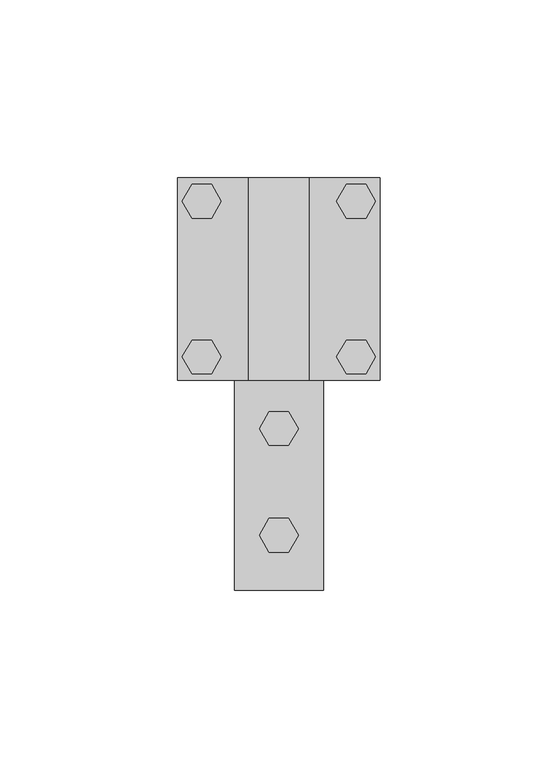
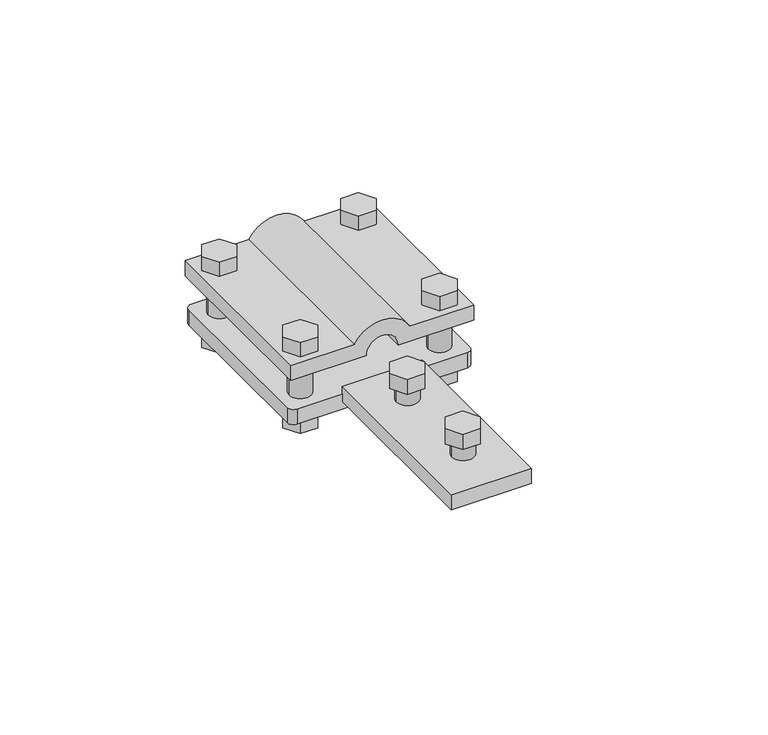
"""IFC4 building model written with IfcOpenShell, lengths in millimetres: proxy geometry, КНС_КонтрольныйСоединитель_DKC : NG3203_Горячеоцинкованная сталь."""

from ifc_helpers import new_model, si_unit, frame, origin, place, context, project, spatial, polyline, circle_curve, outline, extrude, source, transform, mapped, element, save
from ifc_brep_helpers import plane_surface, cylinder_surface, revolved_surface, advanced_brep


def security_devices_8d422149(model_context):
    return source(origin(), model_context, "Body", "SolidModel", [
        advanced_brep(
        [(26.5, 28.5, -5.0), (-26.5, 28.5, -5.0), (-28.5, 26.5, -5.0), (-28.5, -26.5, -5.0), (-26.5, -28.5, -5.0), (26.5, -28.5, -5.0), (28.5, -26.5, -5.0), (28.5, 26.5, -5.0), (-18.2911448, 21.78125, -5.0), (-25.1330666, 21.78125, -5.0), (25.1330666, 21.78125, -5.0), (18.2911448, 21.78125, -5.0), (-18.2911448, -21.78125, -5.0), (-25.1330666, -21.78125, -5.0), (25.1330666, -21.78125, -5.0), (18.2911448, -21.78125, -5.0), (26.5, 28.5, -10.0), (28.5, 26.5, -10.0), (28.5, -26.5, -10.0), (26.5, -28.5, -10.0), (-26.5, -28.5, -10.0), (-28.5, -26.5, -10.0), (-28.5, 26.5, -10.0), (-26.5, 28.5, -10.0), (8.660254, -28.5, 10.0), (28.5, -28.5, 10.0), (28.5, 28.5, 10.0), (8.660254, 28.5, 10.0), (-28.5, -28.5, 10.0), (-8.660254, -28.5, 10.0), (-8.660254, 28.5, 10.0), (-28.5, 28.5, 10.0), (-18.2911448, 21.78125, 5.0), (-25.1330666, 21.78125, 5.0), (25.1330666, 21.78125, 5.0), (18.2911448, 21.78125, 5.0), (-18.2911448, -21.78125, 5.0), (-25.1330666, -21.78125, 5.0), (25.1330666, -21.78125, 5.0), (18.2911448, -21.78125, 5.0), (-28.5, -28.5, 5.0), (-5.0, -28.5, 5.0), (5.0, -28.5, 5.0), (28.5, -28.5, 5.0), (28.5, 28.5, 5.0), (5.0, 28.5, 5.0), (-5.0, 28.5, 5.0), (-28.5, 28.5, 5.0)],
        [
            (0, 1),
            (1, 2, circle_curve(frame((-26.5, 26.5, -5.0), z_axis=(0.0, 0.0, 1.0), x_axis=(1.0, 0.0, 0.0)), 2.0)),
            (2, 3),
            (3, 4, circle_curve(frame((-26.5, -26.5, -5.0), z_axis=(0.0, 0.0, 1.0), x_axis=(1.0, 0.0, 0.0)), 2.0)),
            (4, 5),
            (5, 6, circle_curve(frame((26.5, -26.5, -5.0), z_axis=(0.0, 0.0, 1.0), x_axis=(1.0, 0.0, 0.0)), 2.0)),
            (6, 7),
            (7, 0, circle_curve(frame((26.5, 26.5, -5.0), z_axis=(0.0, 0.0, 1.0), x_axis=(1.0, 0.0, 0.0)), 2.0)),
            (8, 9, circle_curve(frame((-21.7121057, 21.78125, -5.0), z_axis=(0.0, 0.0, -1.0), x_axis=(1.0, 0.0, 0.0)), 3.4209609)),
            (9, 8, circle_curve(frame((-21.7121057, 21.78125, -5.0), z_axis=(0.0, 0.0, -1.0), x_axis=(1.0, 0.0, 0.0)), 3.4209609)),
            (10, 11, circle_curve(frame((21.7121057, 21.78125, -5.0), z_axis=(0.0, 0.0, -1.0), x_axis=(1.0, 0.0, 0.0)), 3.4209609)),
            (11, 10, circle_curve(frame((21.7121057, 21.78125, -5.0), z_axis=(0.0, 0.0, -1.0), x_axis=(1.0, 0.0, 0.0)), 3.4209609)),
            (12, 13, circle_curve(frame((-21.7121057, -21.78125, -5.0), z_axis=(0.0, 0.0, -1.0), x_axis=(1.0, 0.0, 0.0)), 3.4209609)),
            (13, 12, circle_curve(frame((-21.7121057, -21.78125, -5.0), z_axis=(0.0, 0.0, -1.0), x_axis=(1.0, 0.0, 0.0)), 3.4209609)),
            (14, 15, circle_curve(frame((21.7121057, -21.78125, -5.0), z_axis=(0.0, 0.0, -1.0), x_axis=(1.0, 0.0, 0.0)), 3.4209609)),
            (15, 14, circle_curve(frame((21.7121057, -21.78125, -5.0), z_axis=(0.0, 0.0, -1.0), x_axis=(1.0, 0.0, 0.0)), 3.4209609)),
            (16, 17, circle_curve(frame((26.5, 26.5, -10.0), z_axis=(0.0, 0.0, -1.0), x_axis=(1.0, 0.0, 0.0)), 2.0)),
            (17, 18),
            (18, 19, circle_curve(frame((26.5, -26.5, -10.0), z_axis=(0.0, 0.0, -1.0), x_axis=(1.0, 0.0, 0.0)), 2.0)),
            (19, 20),
            (20, 21, circle_curve(frame((-26.5, -26.5, -10.0), z_axis=(0.0, 0.0, -1.0), x_axis=(1.0, 0.0, 0.0)), 2.0)),
            (21, 22),
            (22, 23, circle_curve(frame((-26.5, 26.5, -10.0), z_axis=(0.0, 0.0, -1.0), x_axis=(1.0, 0.0, 0.0)), 2.0)),
            (23, 16),
            (0, 16),
            (23, 1),
            (22, 2),
            (21, 3),
            (20, 4),
            (19, 5),
            (18, 6),
            (17, 7),
            (24, 25),
            (25, 26),
            (26, 27),
            (27, 24),
            (28, 29),
            (29, 30),
            (30, 31),
            (31, 28),
            (8, 32),
            (32, 33, circle_curve(frame((-21.7121057, 21.78125, 5.0), z_axis=(0.0, 0.0, -1.0), x_axis=(1.0, 0.0, 0.0)), 3.4209609)),
            (33, 9),
            (33, 32, circle_curve(frame((-21.7121057, 21.78125, 5.0), z_axis=(0.0, 0.0, -1.0), x_axis=(1.0, 0.0, 0.0)), 3.4209609)),
            (10, 34),
            (34, 35, circle_curve(frame((21.7121057, 21.78125, 5.0), z_axis=(0.0, 0.0, -1.0), x_axis=(1.0, 0.0, 0.0)), 3.4209609)),
            (35, 11),
            (35, 34, circle_curve(frame((21.7121057, 21.78125, 5.0), z_axis=(0.0, 0.0, -1.0), x_axis=(1.0, 0.0, 0.0)), 3.4209609)),
            (12, 36),
            (36, 37, circle_curve(frame((-21.7121057, -21.78125, 5.0), z_axis=(0.0, 0.0, -1.0), x_axis=(1.0, 0.0, 0.0)), 3.4209609)),
            (37, 13),
            (37, 36, circle_curve(frame((-21.7121057, -21.78125, 5.0), z_axis=(0.0, 0.0, -1.0), x_axis=(1.0, 0.0, 0.0)), 3.4209609)),
            (14, 38),
            (38, 39, circle_curve(frame((21.7121057, -21.78125, 5.0), z_axis=(0.0, 0.0, -1.0), x_axis=(1.0, 0.0, 0.0)), 3.4209609)),
            (39, 15),
            (39, 38, circle_curve(frame((21.7121057, -21.78125, 5.0), z_axis=(0.0, 0.0, -1.0), x_axis=(1.0, 0.0, 0.0)), 3.4209609)),
            (28, 40),
            (40, 41),
            (41, 42, circle_curve(frame((0.0, -28.5, 5.0), z_axis=(0.0, 1.0, 0.0), x_axis=(1.0, 0.0, 0.0)), 5.0)),
            (42, 43),
            (43, 25),
            (24, 29, circle_curve(frame((0.0, -28.5, 5.0), z_axis=(0.0, -1.0, 0.0), x_axis=(1.0, 0.0, 0.0)), 10.0)),
            (30, 27, circle_curve(frame((0.0, 28.5, 5.0), z_axis=(0.0, 1.0, 0.0), x_axis=(1.0, 0.0, 0.0)), 10.0)),
            (26, 44),
            (44, 45),
            (45, 46, circle_curve(frame((0.0, 28.5, 5.0), z_axis=(0.0, -1.0, 0.0), x_axis=(1.0, 0.0, 0.0)), 5.0)),
            (46, 47),
            (47, 31),
            (47, 40),
            (46, 41),
            (45, 42),
            (44, 43),
        ],
        [
            plane_surface(frame((-26.5, 28.5, -5.0), z_axis=(0.0, 0.0, 1.0), x_axis=(-1.0, 0.0, 0.0))),
            plane_surface(frame((-26.5, 28.5, -10.0), z_axis=(0.0, 0.0, -1.0), x_axis=(1.0, 0.0, 0.0))),
            plane_surface(frame((26.5, 28.5, -5.0), z_axis=(0.0, 1.0, 0.0), x_axis=(0.0, 0.0, -1.0))),
            cylinder_surface(frame((-26.5, 26.5, -10.0), z_axis=(0.0, 0.0, 1.0), x_axis=(1.0, 0.0, 0.0)), 2.0),
            plane_surface(frame((-28.5, 26.5, -5.0), z_axis=(-1.0, 0.0, 0.0), x_axis=(0.0, 0.0, -1.0))),
            cylinder_surface(frame((-26.5, -26.5, -10.0), z_axis=(0.0, 0.0, 1.0), x_axis=(1.0, 0.0, 0.0)), 2.0),
            plane_surface(frame((-26.5, -28.5, -5.0), z_axis=(0.0, -1.0, 0.0), x_axis=(0.0, 0.0, -1.0))),
            cylinder_surface(frame((26.5, -26.5, -10.0), z_axis=(0.0, 0.0, 1.0), x_axis=(1.0, 0.0, 0.0)), 2.0),
            plane_surface(frame((28.5, -26.5, -5.0), z_axis=(1.0, 0.0, 0.0), x_axis=(0.0, 0.0, -1.0))),
            cylinder_surface(frame((26.5, 26.5, -10.0), z_axis=(0.0, 0.0, 1.0), x_axis=(1.0, 0.0, 0.0)), 2.0),
            plane_surface(frame((-18.2911448, 21.78125, 10.0), z_axis=(0.0, 0.0, 1.0), x_axis=(0.0, 1.0, 0.0))),
            cylinder_surface(frame((-21.7121057, 21.78125, -10.0), z_axis=(0.0, 0.0, 1.0), x_axis=(1.0, 0.0, 0.0)), 3.4209609),
            cylinder_surface(frame((21.7121057, 21.78125, 0.0), z_axis=(0.0, 0.0, 1.0), x_axis=(1.0, 0.0, 0.0)), 3.4209609),
            cylinder_surface(frame((-21.7121057, -21.78125, 0.0), z_axis=(0.0, 0.0, 1.0), x_axis=(1.0, 0.0, 0.0)), 3.4209609),
            cylinder_surface(frame((21.7121057, -21.78125, 0.0), z_axis=(0.0, 0.0, 1.0), x_axis=(1.0, 0.0, 0.0)), 3.4209609),
            plane_surface(frame((-28.5, -28.5, 5.0), z_axis=(0.0, -1.0, 0.0), x_axis=(0.0, 0.0, -1.0))),
            plane_surface(frame((-28.5, 28.5, 5.0), z_axis=(0.0, 1.0, 0.0), x_axis=(0.0, 0.0, 1.0))),
            plane_surface(frame((-28.5, -28.5, 10.0), z_axis=(-1.0, 0.0, 0.0), x_axis=(0.0, 1.0, 0.0))),
            plane_surface(frame((-28.5, -28.5, 5.0), z_axis=(0.0, 0.0, -1.0), x_axis=(0.0, 1.0, 0.0))),
            revolved_surface(polyline([(5.0, 28.5, 5.0), (5.0, -28.5, 5.0)]), (0.0, 28.5, 5.0), (0.0, 1.0, 0.0)),
            plane_surface(frame((5.0, -28.5, 5.0), z_axis=(0.0, 0.0, -1.0), x_axis=(0.0, 1.0, 0.0))),
            plane_surface(frame((28.5, -28.5, 5.0), z_axis=(1.0, 0.0, 0.0), x_axis=(0.0, 1.0, 0.0))),
            cylinder_surface(frame((0.0, 28.5, 5.0), z_axis=(0.0, -1.0, 0.0), x_axis=(1.0, 0.0, 0.0)), 10.0),
        ],
        [
            (0, [[1, 2, 3, 4, 5, 6, 7, 8], [9, 10], [11, 12], [13, 14], [15, 16]]),
            (1, [[17, 18, 19, 20, 21, 22, 23, 24]]),
            (2, [[-1, 25, -24, 26]]),
            (3, [[-2, -26, -23, 27]]),
            (4, [[-3, -27, -22, 28]]),
            (5, [[-4, -28, -21, 29]]),
            (6, [[-5, -29, -20, 30]]),
            (7, [[-6, -30, -19, 31]]),
            (8, [[-7, -31, -18, 32]]),
            (9, [[-8, -32, -17, -25]]),
            (10, [[33, 34, 35, 36]]),
            (10, [[37, 38, 39, 40]]),
            (11, [[-9, 41, 42, 43]]),
            (11, [[-10, -43, 44, -41]]),
            (12, [[-11, 45, 46, 47]]),
            (12, [[-12, -47, 48, -45]]),
            (13, [[-13, 49, 50, 51]]),
            (13, [[-14, -51, 52, -49]]),
            (14, [[-15, 53, 54, 55]]),
            (14, [[-16, -55, 56, -53]]),
            (15, [[57, 58, 59, 60, 61, -33, 62, -37]]),
            (16, [[-39, 63, -35, 64, 65, 66, 67, 68]]),
            (17, [[-57, -40, -68, 69]]),
            (18, [[-58, -69, -67, 70], [-42, -44], [-50, -52]]),
            (19, [[-59, -70, -66, 71]]),
            (20, [[-60, -71, -65, 72], [-46, -48], [-54, -56]]),
            (21, [[-61, -72, -64, -34]]),
            (22, [[-62, -36, -63, -38]]),
        ],
    ),
        advanced_brep(
        [(12.5, -28.5, -7.5), (12.5, -87.5, -7.5), (-12.5, -87.5, -7.5), (-12.5, -28.5, -7.5), (-5.4875167, -42.028913, -7.5), (-2.7437583, -46.7812419, -7.5), (2.7437583, -46.7812419, -7.5), (5.4875167, -42.028913, -7.5), (2.7437583, -37.2765841, -7.5), (-2.7437583, -37.2765841, -7.5), (-5.4875167, -72.028913, -7.5), (-2.7437583, -76.7812419, -7.5), (2.7437583, -76.7812419, -7.5), (5.4875167, -72.028913, -7.5), (2.7437583, -67.2765841, -7.5), (-2.7437583, -67.2765841, -7.5), (12.5, -28.5, -2.5), (-12.5, -28.5, -2.5), (-12.5, -87.5, -2.5), (12.5, -87.5, -2.5), (3.4209609, -42.1359713, -2.5), (-3.4209609, -42.1359713, -2.5), (3.4209609, -72.1359713, -2.5), (-3.4209609, -72.1359713, -2.5), (-3.4209609, -42.1359713, -12.8574253), (3.4209609, -42.1359713, -12.8574253), (-3.4209609, -72.1359713, -12.8574253), (3.4209609, -72.1359713, -12.8574253), (3.4209609, -42.1359713, -12.5), (-3.4209609, -42.1359713, -12.5), (-3.4209609, -42.1359713, 2.5), (3.4209609, -42.1359713, 2.5), (3.4209609, -72.1359713, -12.5), (-3.4209609, -72.1359713, -12.5), (-3.4209609, -72.1359713, 2.5), (3.4209609, -72.1359713, 2.5), (-5.4875167, -42.028913, 7.5), (-2.7437583, -46.7812419, 7.5), (2.7437583, -46.7812419, 7.5), (5.4875167, -42.028913, 7.5), (2.7437583, -37.2765841, 7.5), (-2.7437583, -37.2765841, 7.5), (-5.4875167, -72.028913, 7.5), (-2.7437583, -76.7812419, 7.5), (2.7437583, -76.7812419, 7.5), (5.4875167, -72.028913, 7.5), (2.7437583, -67.2765841, 7.5), (-2.7437583, -67.2765841, 7.5), (-5.4875167, -42.028913, 2.5), (-2.7437583, -37.2765841, 2.5), (2.7437583, -37.2765841, 2.5), (5.4875167, -42.028913, 2.5), (2.7437583, -46.7812419, 2.5), (-2.7437583, -46.7812419, 2.5), (-5.4875167, -72.028913, 2.5), (-2.7437583, -67.2765841, 2.5), (2.7437583, -67.2765841, 2.5), (5.4875167, -72.028913, 2.5), (2.7437583, -76.7812419, 2.5), (-2.7437583, -76.7812419, 2.5), (-5.4875167, -42.028913, -12.5), (-2.7437583, -37.2765841, -12.5), (2.7437583, -37.2765841, -12.5), (5.4875167, -42.028913, -12.5), (2.7437583, -46.7812419, -12.5), (-2.7437583, -46.7812419, -12.5), (-5.4875167, -72.028913, -12.5), (-2.7437583, -67.2765841, -12.5), (2.7437583, -67.2765841, -12.5), (5.4875167, -72.028913, -12.5), (2.7437583, -76.7812419, -12.5), (-2.7437583, -76.7812419, -12.5)],
        [
            (0, 1),
            (1, 2),
            (2, 3),
            (3, 0),
            (4, 5),
            (5, 6),
            (6, 7),
            (7, 8),
            (8, 9),
            (9, 4),
            (10, 11),
            (11, 12),
            (12, 13),
            (13, 14),
            (14, 15),
            (15, 10),
            (16, 17),
            (17, 18),
            (18, 19),
            (19, 16),
            (20, 21, circle_curve(frame((0.0, -42.1359713, -2.5), z_axis=(0.0, 0.0, -1.0), x_axis=(1.0, 0.0, 0.0)), 3.4209609)),
            (21, 20, circle_curve(frame((0.0, -42.1359713, -2.5), z_axis=(0.0, 0.0, -1.0), x_axis=(1.0, 0.0, 0.0)), 3.4209609)),
            (22, 23, circle_curve(frame((0.0, -72.1359713, -2.5), z_axis=(0.0, 0.0, -1.0), x_axis=(1.0, 0.0, 0.0)), 3.4209609)),
            (23, 22, circle_curve(frame((0.0, -72.1359713, -2.5), z_axis=(0.0, 0.0, -1.0), x_axis=(1.0, 0.0, 0.0)), 3.4209609)),
            (3, 17),
            (16, 0),
            (2, 18),
            (1, 19),
            (24, 25, circle_curve(frame((0.0, -42.1359713, -12.8574253), z_axis=(0.0, 0.0, -1.0), x_axis=(1.0, 0.0, 0.0)), 3.4209609)),
            (25, 24, circle_curve(frame((0.0, -42.1359713, -12.8574253), z_axis=(0.0, 0.0, -1.0), x_axis=(1.0, 0.0, 0.0)), 3.4209609)),
            (26, 27, circle_curve(frame((0.0, -72.1359713, -12.8574253), z_axis=(0.0, 0.0, -1.0), x_axis=(1.0, 0.0, 0.0)), 3.4209609)),
            (27, 26, circle_curve(frame((0.0, -72.1359713, -12.8574253), z_axis=(0.0, 0.0, -1.0), x_axis=(1.0, 0.0, 0.0)), 3.4209609)),
            (25, 28),
            (28, 29, circle_curve(frame((0.0, -42.1359713, -12.5), z_axis=(0.0, 0.0, -1.0), x_axis=(1.0, 0.0, 0.0)), 3.4209609)),
            (29, 24),
            (30, 21),
            (20, 31),
            (31, 30, circle_curve(frame((0.0, -42.1359713, 2.5), z_axis=(0.0, 0.0, -1.0), x_axis=(1.0, 0.0, 0.0)), 3.4209609)),
            (29, 28, circle_curve(frame((0.0, -42.1359713, -12.5), z_axis=(0.0, 0.0, -1.0), x_axis=(1.0, 0.0, 0.0)), 3.4209609)),
            (30, 31, circle_curve(frame((0.0, -42.1359713, 2.5), z_axis=(0.0, 0.0, -1.0), x_axis=(1.0, 0.0, 0.0)), 3.4209609)),
            (27, 32),
            (32, 33, circle_curve(frame((0.0, -72.1359713, -12.5), z_axis=(0.0, 0.0, -1.0), x_axis=(1.0, 0.0, 0.0)), 3.4209609)),
            (33, 26),
            (34, 23),
            (22, 35),
            (35, 34, circle_curve(frame((0.0, -72.1359713, 2.5), z_axis=(0.0, 0.0, -1.0), x_axis=(1.0, 0.0, 0.0)), 3.4209609)),
            (33, 32, circle_curve(frame((0.0, -72.1359713, -12.5), z_axis=(0.0, 0.0, -1.0), x_axis=(1.0, 0.0, 0.0)), 3.4209609)),
            (34, 35, circle_curve(frame((0.0, -72.1359713, 2.5), z_axis=(0.0, 0.0, -1.0), x_axis=(1.0, 0.0, 0.0)), 3.4209609)),
            (36, 37),
            (37, 38),
            (38, 39),
            (39, 40),
            (40, 41),
            (41, 36),
            (42, 43),
            (43, 44),
            (44, 45),
            (45, 46),
            (46, 47),
            (47, 42),
            (48, 49),
            (49, 50),
            (50, 51),
            (51, 52),
            (52, 53),
            (53, 48),
            (54, 55),
            (55, 56),
            (56, 57),
            (57, 58),
            (58, 59),
            (59, 54),
            (36, 48),
            (53, 37),
            (52, 38),
            (51, 39),
            (50, 40),
            (49, 41),
            (42, 54),
            (59, 43),
            (58, 44),
            (57, 45),
            (56, 46),
            (55, 47),
            (60, 61),
            (61, 62),
            (62, 63),
            (63, 64),
            (64, 65),
            (65, 60),
            (66, 67),
            (67, 68),
            (68, 69),
            (69, 70),
            (70, 71),
            (71, 66),
            (65, 5),
            (4, 60),
            (64, 6),
            (63, 7),
            (62, 8),
            (61, 9),
            (71, 11),
            (10, 66),
            (70, 12),
            (69, 13),
            (68, 14),
            (67, 15),
        ],
        [
            plane_surface(frame((-85.0, -28.5, -7.5), z_axis=(0.0, 0.0, -1.0), x_axis=(1.0, 0.0, 0.0))),
            plane_surface(frame((-85.0, -28.5, -2.5), z_axis=(0.0, 0.0, 1.0), x_axis=(-1.0, 0.0, 0.0))),
            plane_surface(frame((12.5, -28.5, -2.5), z_axis=(0.0, 1.0, 0.0), x_axis=(0.0, 0.0, -1.0))),
            plane_surface(frame((-12.5, -28.5, -2.5), z_axis=(-1.0, 0.0, 0.0), x_axis=(0.0, 0.0, -1.0))),
            plane_surface(frame((-12.5, -87.5, -2.5), z_axis=(0.0, -1.0, 0.0), x_axis=(0.0, 0.0, -1.0))),
            plane_surface(frame((12.5, -87.5, -2.5), z_axis=(1.0, 0.0, 0.0), x_axis=(0.0, 0.0, -1.0))),
            plane_surface(frame((3.4209609, -42.1359713, -12.8574253), z_axis=(0.0, 0.0, -1.0), x_axis=(0.0, -1.0, 0.0))),
            cylinder_surface(frame((0.0, -42.1359713, -12.8574253), z_axis=(0.0, 0.0, 1.0), x_axis=(1.0, 0.0, 0.0)), 3.4209609),
            cylinder_surface(frame((0.0, -72.1359713, 0.0), z_axis=(0.0, 0.0, 1.0), x_axis=(1.0, 0.0, 0.0)), 3.4209609),
            plane_surface(frame((-5.4875167, -42.028913, 7.5), z_axis=(0.0, 0.0, 1.0), x_axis=(0.4999999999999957, -0.8660254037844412, 0.0))),
            plane_surface(frame((-5.4875167, -42.028913, 2.5), z_axis=(0.0, 0.0, -1.0), x_axis=(-0.4999999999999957, 0.8660254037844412, 0.0))),
            plane_surface(frame((-5.4875167, -42.028913, 7.5), z_axis=(-0.8660254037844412, -0.4999999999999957, 0.0), x_axis=(0.0, 0.0, -1.0))),
            plane_surface(frame((-2.7437583, -46.7812419, 7.5), z_axis=(0.0, -1.0, 0.0), x_axis=(0.0, 0.0, -1.0))),
            plane_surface(frame((2.7437583, -46.7812419, 7.5), z_axis=(0.866025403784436, -0.5000000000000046, 0.0), x_axis=(0.0, 0.0, -1.0))),
            plane_surface(frame((5.4875167, -42.028913, 7.5), z_axis=(0.8660254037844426, 0.4999999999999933, 0.0), x_axis=(0.0, 0.0, -1.0))),
            plane_surface(frame((2.7437583, -37.2765841, 7.5), z_axis=(0.0, 1.0, 0.0), x_axis=(0.0, 0.0, -1.0))),
            plane_surface(frame((-2.7437583, -37.2765841, 7.5), z_axis=(-0.8660254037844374, 0.5000000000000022, 0.0), x_axis=(0.0, 0.0, -1.0))),
            plane_surface(frame((-5.4875167, -72.028913, 7.5), z_axis=(-0.8660254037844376, -0.5000000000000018, 0.0), x_axis=(0.0, 0.0, -1.0))),
            plane_surface(frame((-2.7437583, -76.7812419, 7.5), z_axis=(0.0, -1.0, 0.0), x_axis=(0.0, 0.0, -1.0))),
            plane_surface(frame((2.7437583, -76.7812419, 7.5), z_axis=(0.8660254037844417, -0.49999999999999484, 0.0), x_axis=(0.0, 0.0, -1.0))),
            plane_surface(frame((5.4875167, -72.028913, 7.5), z_axis=(0.866025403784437, 0.5000000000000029, 0.0), x_axis=(0.0, 0.0, -1.0))),
            plane_surface(frame((2.7437583, -67.2765841, 7.5), z_axis=(0.0, 1.0, 0.0), x_axis=(0.0, 0.0, -1.0))),
            plane_surface(frame((-2.7437583, -67.2765841, 7.5), z_axis=(-0.8660254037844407, 0.4999999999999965, 0.0), x_axis=(0.0, 0.0, -1.0))),
            plane_surface(frame((-5.4875167, -42.028913, -12.5), z_axis=(0.0, 0.0, -1.0), x_axis=(-0.4999999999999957, 0.8660254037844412, 0.0))),
            plane_surface(frame((-5.4875167, -42.028913, -7.5), z_axis=(-0.8660254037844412, -0.4999999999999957, 0.0), x_axis=(0.0, 0.0, -1.0))),
            plane_surface(frame((-2.7437583, -46.7812419, -7.5), z_axis=(0.0, -1.0, 0.0), x_axis=(0.0, 0.0, -1.0))),
            plane_surface(frame((2.7437583, -46.7812419, -7.5), z_axis=(0.866025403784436, -0.5000000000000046, 0.0), x_axis=(0.0, 0.0, -1.0))),
            plane_surface(frame((5.4875167, -42.028913, -7.5), z_axis=(0.8660254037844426, 0.4999999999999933, 0.0), x_axis=(0.0, 0.0, -1.0))),
            plane_surface(frame((2.7437583, -37.2765841, -7.5), z_axis=(0.0, 1.0, 0.0), x_axis=(0.0, 0.0, -1.0))),
            plane_surface(frame((-2.7437583, -37.2765841, -7.5), z_axis=(-0.8660254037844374, 0.5000000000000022, 0.0), x_axis=(0.0, 0.0, -1.0))),
            plane_surface(frame((-5.4875167, -72.028913, -7.5), z_axis=(-0.8660254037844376, -0.5000000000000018, 0.0), x_axis=(0.0, 0.0, -1.0))),
            plane_surface(frame((-2.7437583, -76.7812419, -7.5), z_axis=(0.0, -1.0, 0.0), x_axis=(0.0, 0.0, -1.0))),
            plane_surface(frame((2.7437583, -76.7812419, -7.5), z_axis=(0.8660254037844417, -0.49999999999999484, 0.0), x_axis=(0.0, 0.0, -1.0))),
            plane_surface(frame((5.4875167, -72.028913, -7.5), z_axis=(0.866025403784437, 0.5000000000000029, 0.0), x_axis=(0.0, 0.0, -1.0))),
            plane_surface(frame((2.7437583, -67.2765841, -7.5), z_axis=(0.0, 1.0, 0.0), x_axis=(0.0, 0.0, -1.0))),
            plane_surface(frame((-2.7437583, -67.2765841, -7.5), z_axis=(-0.8660254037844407, 0.4999999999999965, 0.0), x_axis=(0.0, 0.0, -1.0))),
        ],
        [
            (0, [[1, 2, 3, 4], [5, 6, 7, 8, 9, 10], [11, 12, 13, 14, 15, 16]]),
            (1, [[17, 18, 19, 20], [21, 22], [23, 24]]),
            (2, [[-4, 25, -17, 26]]),
            (3, [[-3, 27, -18, -25]]),
            (4, [[-2, 28, -19, -27]]),
            (5, [[-1, -26, -20, -28]]),
            (6, [[29, 30]]),
            (6, [[31, 32]]),
            (7, [[-30, 33, 34, 35]]),
            (7, [[36, -21, 37, 38]]),
            (7, [[-29, -35, 39, -33]]),
            (7, [[-36, 40, -37, -22]]),
            (8, [[-32, 41, 42, 43]]),
            (8, [[44, -23, 45, 46]]),
            (8, [[-31, -43, 47, -41]]),
            (8, [[-44, 48, -45, -24]]),
            (9, [[49, 50, 51, 52, 53, 54]]),
            (9, [[55, 56, 57, 58, 59, 60]]),
            (10, [[61, 62, 63, 64, 65, 66], [-38, -40]]),
            (10, [[67, 68, 69, 70, 71, 72], [-46, -48]]),
            (11, [[-49, 73, -66, 74]]),
            (12, [[-50, -74, -65, 75]]),
            (13, [[-51, -75, -64, 76]]),
            (14, [[-52, -76, -63, 77]]),
            (15, [[-53, -77, -62, 78]]),
            (16, [[-54, -78, -61, -73]]),
            (17, [[-55, 79, -72, 80]]),
            (18, [[-56, -80, -71, 81]]),
            (19, [[-57, -81, -70, 82]]),
            (20, [[-58, -82, -69, 83]]),
            (21, [[-59, -83, -68, 84]]),
            (22, [[-60, -84, -67, -79]]),
            (23, [[85, 86, 87, 88, 89, 90], [-34, -39]]),
            (23, [[91, 92, 93, 94, 95, 96], [-42, -47]]),
            (24, [[-90, 97, -5, 98]]),
            (25, [[-89, 99, -6, -97]]),
            (26, [[-88, 100, -7, -99]]),
            (27, [[-87, 101, -8, -100]]),
            (28, [[-86, 102, -9, -101]]),
            (29, [[-85, -98, -10, -102]]),
            (30, [[-96, 103, -11, 104]]),
            (31, [[-95, 105, -12, -103]]),
            (32, [[-94, 106, -13, -105]]),
            (33, [[-93, 107, -14, -106]]),
            (34, [[-92, 108, -15, -107]]),
            (35, [[-91, -104, -16, -108]]),
        ],
    ),
        extrude(outline(polyline([(-5.4875167, -42.028913), (-2.7437583, -37.2765841), (2.7437583, -37.2765841), (5.4875167, -42.028913), (2.7437583, -46.7812419), (-2.7437583, -46.7812419), (-5.4875167, -42.028913)])), frame((0.0, 0.0, 2.5), z_axis=(0.0, 0.0, 1.0), x_axis=(1.0, 0.0, 0.0)), (0.0, 0.0, 1.0), 5.0),
        extrude(outline(polyline([(-5.4875167, -72.028913), (-2.7437583, -67.2765841), (2.7437583, -67.2765841), (5.4875167, -72.028913), (2.7437583, -76.7812419), (-2.7437583, -76.7812419), (-5.4875167, -72.028913)])), frame((0.0, 0.0, 2.5), z_axis=(0.0, 0.0, 1.0), x_axis=(1.0, 0.0, 0.0)), (0.0, 0.0, 1.0), 5.0),
        extrude(outline(polyline([(-27.1996224, 21.8883083), (-24.455864, 26.6406371), (-18.9683473, 26.6406371), (-16.224589, 21.8883083), (-18.9683473, 17.1359794), (-24.455864, 17.1359794), (-27.1996224, 21.8883083)])), frame((0.0, 0.0, -15.0), z_axis=(0.0, 0.0, 1.0), x_axis=(1.0, 0.0, 0.0)), (0.0, 0.0, 1.0), 5.0),
        extrude(outline(polyline([(27.1996224, 21.8883083), (24.455864, 17.1359794), (18.9683473, 17.1359794), (16.224589, 21.8883083), (18.9683473, 26.6406371), (24.455864, 26.6406371), (27.1996224, 21.8883083)])), frame((0.0, 0.0, -15.0), z_axis=(0.0, 0.0, 1.0), x_axis=(1.0, 0.0, 0.0)), (0.0, 0.0, 1.0), 5.0),
        extrude(outline(polyline([(-27.1996224, -21.8883083), (-24.455864, -17.1359794), (-18.9683473, -17.1359794), (-16.224589, -21.8883083), (-18.9683473, -26.6406371), (-24.455864, -26.6406371), (-27.1996224, -21.8883083)])), frame((0.0, 0.0, -15.0), z_axis=(0.0, 0.0, 1.0), x_axis=(1.0, 0.0, 0.0)), (0.0, 0.0, 1.0), 5.0),
        extrude(outline(polyline([(27.1996224, -21.8883083), (24.455864, -26.6406371), (18.9683473, -26.6406371), (16.224589, -21.8883083), (18.9683473, -17.1359794), (24.455864, -17.1359794), (27.1996224, -21.8883083)])), frame((0.0, 0.0, -15.0), z_axis=(0.0, 0.0, 1.0), x_axis=(1.0, 0.0, 0.0)), (0.0, 0.0, 1.0), 5.0),
        extrude(outline(polyline([(-27.1996224, 21.8883083), (-24.455864, 26.6406371), (-18.9683473, 26.6406371), (-16.224589, 21.8883083), (-18.9683473, 17.1359794), (-24.455864, 17.1359794), (-27.1996224, 21.8883083)])), frame((0.0, 0.0, 10.0), z_axis=(0.0, 0.0, 1.0), x_axis=(1.0, 0.0, 0.0)), (0.0, 0.0, 1.0), 5.0),
        extrude(outline(polyline([(27.1996224, 21.8883083), (24.455864, 17.1359794), (18.9683473, 17.1359794), (16.224589, 21.8883083), (18.9683473, 26.6406371), (24.455864, 26.6406371), (27.1996224, 21.8883083)])), frame((0.0, 0.0, 10.0), z_axis=(0.0, 0.0, 1.0), x_axis=(1.0, 0.0, 0.0)), (0.0, 0.0, 1.0), 5.0),
        extrude(outline(polyline([(-27.1996224, -21.8883083), (-24.455864, -17.1359794), (-18.9683473, -17.1359794), (-16.224589, -21.8883083), (-18.9683473, -26.6406371), (-24.455864, -26.6406371), (-27.1996224, -21.8883083)])), frame((0.0, 0.0, 10.0), z_axis=(0.0, 0.0, 1.0), x_axis=(1.0, 0.0, 0.0)), (0.0, 0.0, 1.0), 5.0),
        extrude(outline(polyline([(27.1996224, -21.8883083), (24.455864, -26.6406371), (18.9683473, -26.6406371), (16.224589, -21.8883083), (18.9683473, -17.1359794), (24.455864, -17.1359794), (27.1996224, -21.8883083)])), frame((0.0, 0.0, 10.0), z_axis=(0.0, 0.0, 1.0), x_axis=(1.0, 0.0, 0.0)), (0.0, 0.0, 1.0), 5.0),
    ])


if __name__ == "__main__":
    model = new_model("IFC4")
    model_context = context("Model", 3, world=origin())
    ifc_project = project(units=[si_unit("LENGTHUNIT", "METRE", prefix="MILLI")], contexts=[model_context])
    site = spatial("IfcSite", under=ifc_project)
    building = spatial("IfcBuilding", under=site)
    placement = place(None, origin())
    security_devices_shape = security_devices_8d422149(model_context)
    element("IfcBuildingElementProxy", 1, Name="КНС_КонтрольныйСоединитель_DKC : NG3203_Горячеоцинкованная сталь", ObjectType="КНС_КонтрольныйСоединитель_DKC : NG3203_Горячеоцинкованная сталь", at=placement, inside=building, context=model_context, shape_type="MappedRepresentation", body=[
        mapped(security_devices_shape, transform((0.0, 0.0, 0.0), x_axis=(1.0, 0.0, 0.0), y_axis=(0.0, 1.0, 0.0), z_axis=(0.0, 0.0, 1.0))),
    ])
    save(model, "model.ifc")
